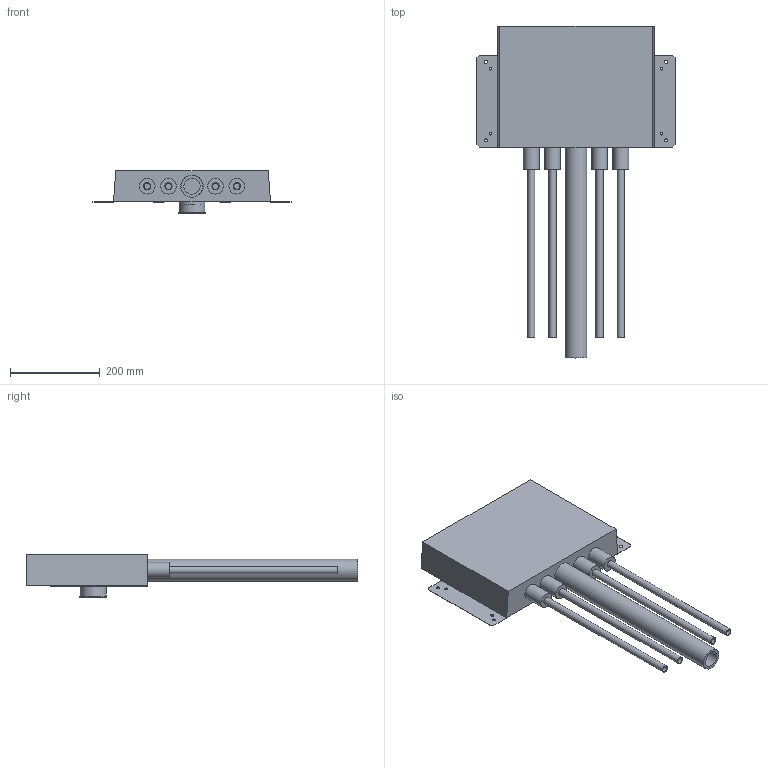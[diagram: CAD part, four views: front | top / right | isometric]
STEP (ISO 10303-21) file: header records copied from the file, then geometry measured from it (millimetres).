
FILE_DESCRIPTION(/* description */ (''),/* implementation_level */ '2;1');
FILE_NAME(/* name */ '\\lg50011\SANHA_LEGNICA\Engineering\Public\PROJEKTY\SANHA-BOX_Support_BiR\002-Rysunki_Boxów\25-WTZ-T\325WTZT16_150.stp',/* time_stamp */ '2018-12-18T13:53:17+01:00',/* author */ ('grzegorz.juzak'),/* organization */ (''),/* preprocessor_version */ 'ST-DEVELOPER v17',/* originating_system */ 'Autodesk Inventor 2019',/* authorisation */ '');
FILE_SCHEMA (('AUTOMOTIVE_DESIGN { 1 0 10303 214 3 1 1 }'));
Length unit declared in the file: millimetre
Products named in the file (6): 325WTZT16_150; Rura_50; Plyta1; Rura_16x2; Kolano_DN50-OD50_Master3; 325WTZT16_150_1
Assembly tree (9 placements, depth 2):
  325WTZT16_150
    Rura_50
    Rura_16x2  x4
    Plyta1  x2
    Kolano_DN50-OD50_Master3
    325WTZT16_150_1
Bounding box: 442 x 740.52 x 95.64 mm (x, y, z)
Volume: 7148188.1 mm3; surface area: 704467.5 mm2
Topology: 9 solids, 9 shells, 168 faces, 383 edges, 258 vertices
Faces by surface type: plane 111, cylinder 38, bspline 16, cone 3
Full cylindrical faces by diameter (mm): 6.1 x4, 7 x4, 14 x4, 16 x8, 18.631 x2, 21 x2, 30 x1, 35 x4, 35.993 x1, 48.5 x1, 50 x1, 52.269 x1, 54 x1, 55 x2, 58 x1, 60 x1
Entity records: 4515 total; most frequent: CARTESIAN_POINT 928, ORIENTED_EDGE 670, DIRECTION 659, EDGE_CURVE 335, LINE 233, VECTOR 233, VERTEX_POINT 226, AXIS2_PLACEMENT_3D 213
